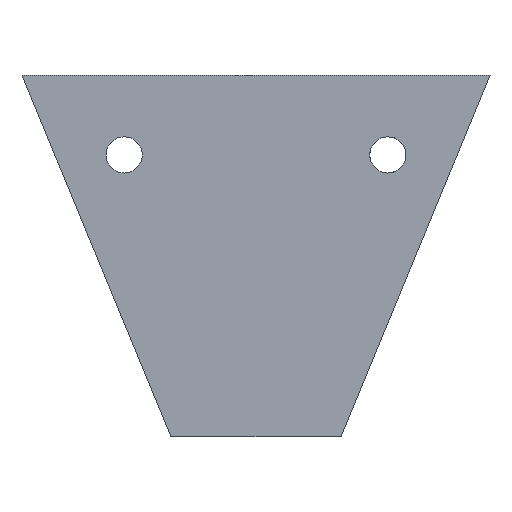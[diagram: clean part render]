
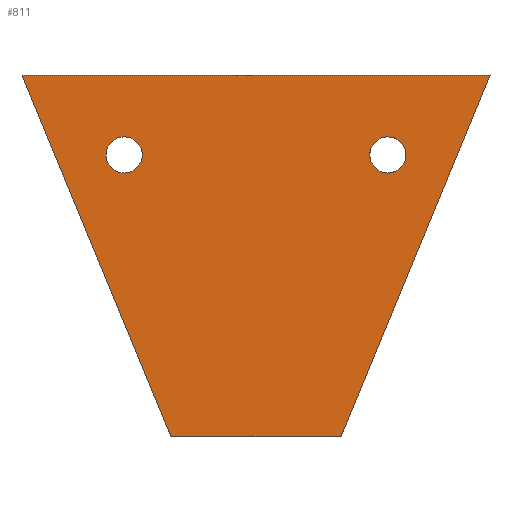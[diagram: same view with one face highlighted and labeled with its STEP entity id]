
A CAD part, front view. The second image highlights one B-rep face of the part: STEP entity #811.
In plain terms, the highlighted planar face has unit normal (0, -1, 0).
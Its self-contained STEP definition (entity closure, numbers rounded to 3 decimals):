
#50 = FACE_OUTER_BOUND ( 'NONE', #1379, .T. ) ;
#67 = EDGE_CURVE ( 'NONE', #725, #1630, #490, .T. ) ;
#124 = ORIENTED_EDGE ( 'NONE', *, *, #67, .F. ) ;
#144 = CARTESIAN_POINT ( 'NONE',  ( 172., -2.5, -29. ) ) ;
#189 = EDGE_CURVE ( 'NONE', #387, #1090, #747, .T. ) ;
#204 = AXIS2_PLACEMENT_3D ( 'NONE', #1293, #1023, #1162 ) ;
#210 = DIRECTION ( 'NONE',  ( 0., 0., 1. ) ) ;
#223 = CARTESIAN_POINT ( 'NONE',  ( 0., -2.5, 0. ) ) ;
#225 = DIRECTION ( 'NONE',  ( 0., 0., 1. ) ) ;
#241 = ORIENTED_EDGE ( 'NONE', *, *, #189, .T. ) ;
#273 = AXIS2_PLACEMENT_3D ( 'NONE', #649, #520, #516 ) ;
#288 = CARTESIAN_POINT ( 'NONE',  ( 0., -2.5, 0. ) ) ;
#295 = CARTESIAN_POINT ( 'NONE',  ( 150., -2.5, -170. ) ) ;
#305 = VERTEX_POINT ( 'NONE', #1552 ) ;
#308 = CIRCLE ( 'NONE', #273, 8.5 ) ;
#332 = CARTESIAN_POINT ( 'NONE',  ( 70., -2.5, -170. ) ) ;
#351 = EDGE_CURVE ( 'NONE', #1090, #387, #1076, .T. ) ;
#383 = DIRECTION ( 'NONE',  ( 0., -1., 0. ) ) ;
#387 = VERTEX_POINT ( 'NONE', #1294 ) ;
#423 = CARTESIAN_POINT ( 'NONE',  ( 220., -2.5, 0. ) ) ;
#490 = LINE ( 'NONE', #332, #1620 ) ;
#514 = CARTESIAN_POINT ( 'NONE',  ( 172., -2.5, -37.5 ) ) ;
#516 = DIRECTION ( 'NONE',  ( 0., 0., 1. ) ) ;
#520 = DIRECTION ( 'NONE',  ( 0., 1., 0. ) ) ;
#553 = CARTESIAN_POINT ( 'NONE',  ( 48., -2.5, -29. ) ) ;
#649 = CARTESIAN_POINT ( 'NONE',  ( 172., -2.5, -37.5 ) ) ;
#663 = EDGE_CURVE ( 'NONE', #1630, #1295, #1701, .T. ) ;
#670 = PLANE ( 'NONE',  #1790 ) ;
#706 = LINE ( 'NONE', #295, #833 ) ;
#725 = VERTEX_POINT ( 'NONE', #1187 ) ;
#747 = CIRCLE ( 'NONE', #944, 8.5 ) ;
#806 = EDGE_CURVE ( 'NONE', #988, #305, #308, .T. ) ;
#811 = ADVANCED_FACE ( 'NONE', ( #1339, #1794, #50 ), #670, .T. ) ;
#833 = VECTOR ( 'NONE', #1557, 1000. ) ;
#872 = EDGE_LOOP ( 'NONE', ( #937, #1692 ) ) ;
#892 = AXIS2_PLACEMENT_3D ( 'NONE', #514, #1050, #210 ) ;
#917 = CARTESIAN_POINT ( 'NONE',  ( 48., -2.5, -37.5 ) ) ;
#937 = ORIENTED_EDGE ( 'NONE', *, *, #806, .T. ) ;
#944 = AXIS2_PLACEMENT_3D ( 'NONE', #917, #1350, #225 ) ;
#955 = DIRECTION ( 'NONE',  ( 1., 0., 0. ) ) ;
#961 = ORIENTED_EDGE ( 'NONE', *, *, #1653, .F. ) ;
#988 = VERTEX_POINT ( 'NONE', #144 ) ;
#1023 = DIRECTION ( 'NONE',  ( 0., 1., 0. ) ) ;
#1029 = EDGE_LOOP ( 'NONE', ( #1116, #241 ) ) ;
#1050 = DIRECTION ( 'NONE',  ( 0., 1., 0. ) ) ;
#1076 = CIRCLE ( 'NONE', #204, 8.5 ) ;
#1090 = VERTEX_POINT ( 'NONE', #553 ) ;
#1113 = ORIENTED_EDGE ( 'NONE', *, *, #1190, .F. ) ;
#1116 = ORIENTED_EDGE ( 'NONE', *, *, #351, .T. ) ;
#1151 = VERTEX_POINT ( 'NONE', #423 ) ;
#1162 = DIRECTION ( 'NONE',  ( 0., 0., 1. ) ) ;
#1179 = DIRECTION ( 'NONE',  ( -0.381, 0., 0.925 ) ) ;
#1185 = CARTESIAN_POINT ( 'NONE',  ( 70., -2.5, -170. ) ) ;
#1187 = CARTESIAN_POINT ( 'NONE',  ( 150., -2.5, -170. ) ) ;
#1190 = EDGE_CURVE ( 'NONE', #1151, #725, #706, .T. ) ;
#1240 = VECTOR ( 'NONE', #1179, 1000. ) ;
#1293 = CARTESIAN_POINT ( 'NONE',  ( 48., -2.5, -37.5 ) ) ;
#1294 = CARTESIAN_POINT ( 'NONE',  ( 48., -2.5, -46. ) ) ;
#1295 = VERTEX_POINT ( 'NONE', #288 ) ;
#1339 = FACE_BOUND ( 'NONE', #872, .T. ) ;
#1350 = DIRECTION ( 'NONE',  ( 0., 1., 0. ) ) ;
#1379 = EDGE_LOOP ( 'NONE', ( #1733, #124, #1113, #961 ) ) ;
#1552 = CARTESIAN_POINT ( 'NONE',  ( 172., -2.5, -46. ) ) ;
#1557 = DIRECTION ( 'NONE',  ( -0.381, 0., -0.925 ) ) ;
#1561 = VECTOR ( 'NONE', #955, 1000. ) ;
#1617 = DIRECTION ( 'NONE',  ( -1., 0., 0. ) ) ;
#1620 = VECTOR ( 'NONE', #1617, 1000. ) ;
#1630 = VERTEX_POINT ( 'NONE', #1185 ) ;
#1642 = EDGE_CURVE ( 'NONE', #305, #988, #1820, .T. ) ;
#1653 = EDGE_CURVE ( 'NONE', #1295, #1151, #1662, .T. ) ;
#1662 = LINE ( 'NONE', #1786, #1561 ) ;
#1669 = CARTESIAN_POINT ( 'NONE',  ( 0., -2.5, 0. ) ) ;
#1692 = ORIENTED_EDGE ( 'NONE', *, *, #1642, .T. ) ;
#1701 = LINE ( 'NONE', #223, #1240 ) ;
#1733 = ORIENTED_EDGE ( 'NONE', *, *, #663, .F. ) ;
#1786 = CARTESIAN_POINT ( 'NONE',  ( 0., -2.5, 0. ) ) ;
#1787 = DIRECTION ( 'NONE',  ( 0., 0., -1. ) ) ;
#1790 = AXIS2_PLACEMENT_3D ( 'NONE', #1669, #383, #1787 ) ;
#1794 = FACE_BOUND ( 'NONE', #1029, .T. ) ;
#1820 = CIRCLE ( 'NONE', #892, 8.5 ) ;
